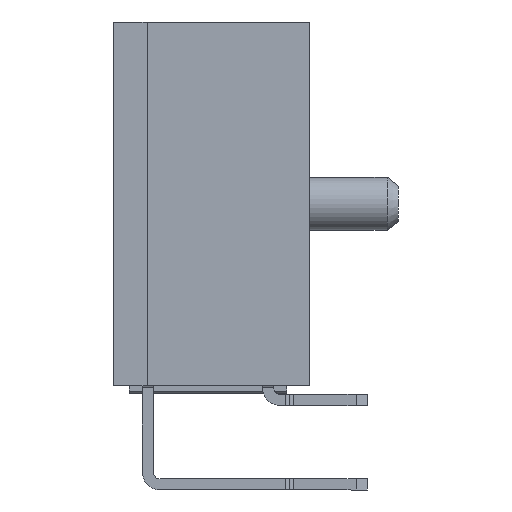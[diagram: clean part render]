
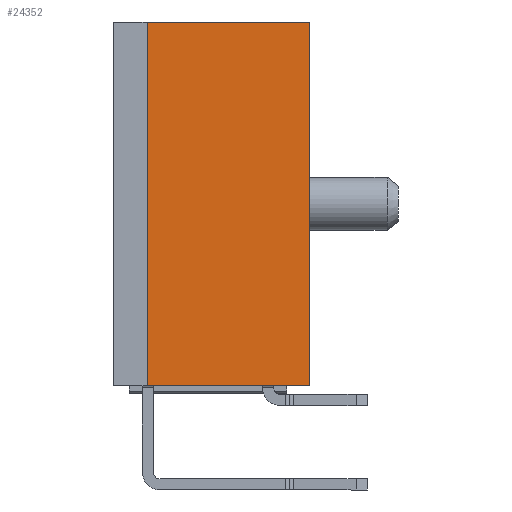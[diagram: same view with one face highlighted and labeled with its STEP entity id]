
A CAD part, left-side view. The second image highlights one B-rep face of the part: STEP entity #24352.
In plain terms, the highlighted planar face has unit normal (-1, 0, 0).
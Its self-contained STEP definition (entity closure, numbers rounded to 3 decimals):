
#4692 = ORIENTED_EDGE ( 'NONE', *, *, #7177, .F. ) ;
#4695 = ORIENTED_EDGE ( 'NONE', *, *, #30649, .F. ) ;
#4696 = ORIENTED_EDGE ( 'NONE', *, *, #23586, .F. ) ;
#4699 = ORIENTED_EDGE ( 'NONE', *, *, #30648, .T. ) ;
#6988 = EDGE_LOOP ( 'NONE', ( #4699, #4696, #4695, #4692 ) ) ;
#7177 = EDGE_CURVE ( 'NONE', #27297, #27789, #35491, .T. ) ;
#7960 = VECTOR ( 'NONE', #8720, 1000. ) ;
#7962 = VECTOR ( 'NONE', #8722, 1000. ) ;
#8703 = LINE ( 'NONE', #8718, #7960 ) ;
#8709 = LINE ( 'NONE', #8721, #7962 ) ;
#8718 = CARTESIAN_POINT ( 'NONE',  ( -30.71, 4.25, -8.2 ) ) ;
#8720 = DIRECTION ( 'NONE',  ( 0., -1., 0. ) ) ;
#8721 = CARTESIAN_POINT ( 'NONE',  ( -30.71, -4.25, 8.2 ) ) ;
#8722 = DIRECTION ( 'NONE',  ( 0., -1., 0. ) ) ;
#13400 = PLANE ( 'NONE',  #26292 ) ;
#13422 = DIRECTION ( 'NONE',  ( 1., 0., 0. ) ) ;
#13517 = CARTESIAN_POINT ( 'NONE',  ( -30.71, 4.25, 8.2 ) ) ;
#13528 = DIRECTION ( 'NONE',  ( 0., 1., 0. ) ) ;
#13806 = FACE_OUTER_BOUND ( 'NONE', #6988, .T. ) ;
#18941 = VERTEX_POINT ( 'NONE', #28668 ) ;
#20667 = VERTEX_POINT ( 'NONE', #29071 ) ;
#23586 = EDGE_CURVE ( 'NONE', #18941, #20667, #43076, .T. ) ;
#24352 = ADVANCED_FACE ( 'NONE', ( #13806 ), #13400, .F. ) ;
#26292 = AXIS2_PLACEMENT_3D ( 'NONE', #13517, #13422, #13528 ) ;
#27297 = VERTEX_POINT ( 'NONE', #44038 ) ;
#27789 = VERTEX_POINT ( 'NONE', #44713 ) ;
#28668 = CARTESIAN_POINT ( 'NONE',  ( -30.71, -4.58, 8.2 ) ) ;
#29071 = CARTESIAN_POINT ( 'NONE',  ( -30.71, -4.58, -8.2 ) ) ;
#30648 = EDGE_CURVE ( 'NONE', #27297, #20667, #8703, .T. ) ;
#30649 = EDGE_CURVE ( 'NONE', #27789, #18941, #8709, .T. ) ;
#35191 = CARTESIAN_POINT ( 'NONE',  ( -30.71, 2.75, 8.2 ) ) ;
#35491 = LINE ( 'NONE', #35191, #46621 ) ;
#35548 = DIRECTION ( 'NONE',  ( 0., 0., 1. ) ) ;
#42531 = VECTOR ( 'NONE', #43807, 1000. ) ;
#43076 = LINE ( 'NONE', #43433, #42531 ) ;
#43433 = CARTESIAN_POINT ( 'NONE',  ( -30.71, -4.58, 8.2 ) ) ;
#43807 = DIRECTION ( 'NONE',  ( 0., 0., -1. ) ) ;
#44038 = CARTESIAN_POINT ( 'NONE',  ( -30.71, 2.75, -8.2 ) ) ;
#44713 = CARTESIAN_POINT ( 'NONE',  ( -30.71, 2.75, 8.2 ) ) ;
#46621 = VECTOR ( 'NONE', #35548, 1000. ) ;
